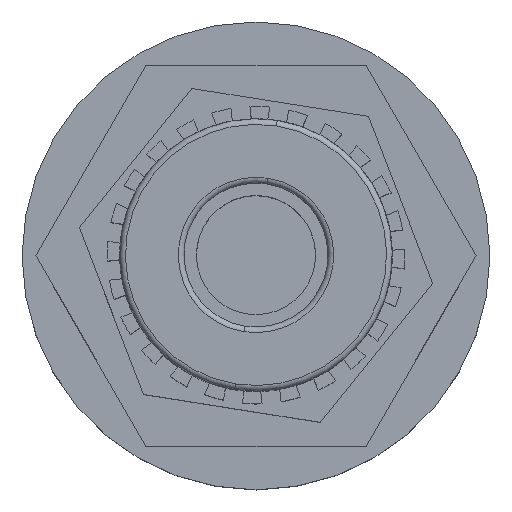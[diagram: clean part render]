
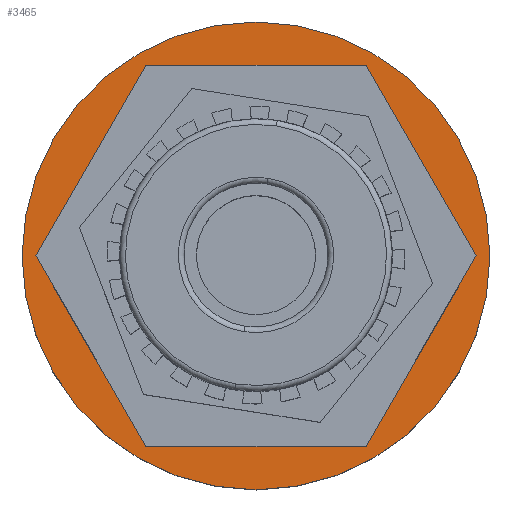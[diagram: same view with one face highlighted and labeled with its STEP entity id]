
A CAD part, top view. The second image highlights one B-rep face of the part: STEP entity #3465.
In plain terms, the highlighted planar face has unit normal (0, 0, 1).
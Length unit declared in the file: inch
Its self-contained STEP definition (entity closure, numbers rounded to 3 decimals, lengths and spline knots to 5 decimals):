
#19 = VERTEX_POINT ( 'NONE', #1109 ) ;
#227 = ORIENTED_EDGE ( 'NONE', *, *, #947, .F. ) ;
#254 = ORIENTED_EDGE ( 'NONE', *, *, #946, .F. ) ;
#267 = ORIENTED_EDGE ( 'NONE', *, *, #944, .F. ) ;
#281 = ORIENTED_EDGE ( 'NONE', *, *, #939, .F. ) ;
#291 = ORIENTED_EDGE ( 'NONE', *, *, #943, .F. ) ;
#296 = ORIENTED_EDGE ( 'NONE', *, *, #948, .F. ) ;
#298 = ORIENTED_EDGE ( 'NONE', *, *, #945, .F. ) ;
#426 = EDGE_LOOP ( 'NONE', ( #267, #298, #254, #227, #296, #575 ) ) ;
#488 = EDGE_LOOP ( 'NONE', ( #281, #291 ) ) ;
#575 = ORIENTED_EDGE ( 'NONE', *, *, #949, .F. ) ;
#643 = CARTESIAN_POINT ( 'NONE',  ( -4.28146, -0.04457, -0.077 ) ) ;
#655 = CARTESIAN_POINT ( 'NONE',  ( -4.85881, 0.95543, -0.077 ) ) ;
#656 = CARTESIAN_POINT ( 'NONE',  ( -4.93111, 0.95543, -0.077 ) ) ;
#668 = CARTESIAN_POINT ( 'NONE',  ( -2.54941, 0.95543, -0.077 ) ) ;
#670 = CARTESIAN_POINT ( 'NONE',  ( -3.12676, 1.95543, -0.077 ) ) ;
#690 = VERTEX_POINT ( 'NONE', #4358 ) ;
#745 = VERTEX_POINT ( 'NONE', #4334 ) ;
#821 = VERTEX_POINT ( 'NONE', #668 ) ;
#825 = VERTEX_POINT ( 'NONE', #656 ) ;
#826 = VERTEX_POINT ( 'NONE', #655 ) ;
#833 = VERTEX_POINT ( 'NONE', #670 ) ;
#840 = VERTEX_POINT ( 'NONE', #643 ) ;
#939 = EDGE_CURVE ( 'NONE', #825, #745, #3874, .T. ) ;
#943 = EDGE_CURVE ( 'NONE', #745, #825, #3880, .T. ) ;
#944 = EDGE_CURVE ( 'NONE', #821, #833, #3883, .T. ) ;
#945 = EDGE_CURVE ( 'NONE', #690, #821, #3881, .T. ) ;
#946 = EDGE_CURVE ( 'NONE', #840, #690, #3884, .T. ) ;
#947 = EDGE_CURVE ( 'NONE', #826, #840, #3886, .T. ) ;
#948 = EDGE_CURVE ( 'NONE', #19, #826, #3888, .T. ) ;
#949 = EDGE_CURVE ( 'NONE', #833, #19, #3890, .T. ) ;
#1025 = AXIS2_PLACEMENT_3D ( 'NONE', #1140, #1141, #1142 ) ;
#1027 = AXIS2_PLACEMENT_3D ( 'NONE', #1151, #1152, #1153 ) ;
#1109 = CARTESIAN_POINT ( 'NONE',  ( -4.28146, 1.95543, -0.077 ) ) ;
#1140 = CARTESIAN_POINT ( 'NONE',  ( -3.70411, 0.95543, -0.077 ) ) ;
#1141 = DIRECTION ( 'NONE',  ( 0., 0., -1. ) ) ;
#1142 = DIRECTION ( 'NONE',  ( -1., 0., 0. ) ) ;
#1143 = DIRECTION ( 'NONE',  ( -0.5, 0.866, 0. ) ) ;
#1148 = CARTESIAN_POINT ( 'NONE',  ( -2.54941, 0.95543, -0.077 ) ) ;
#1149 = CARTESIAN_POINT ( 'NONE',  ( -4.28146, -0.04457, -0.077 ) ) ;
#1150 = CARTESIAN_POINT ( 'NONE',  ( -3.12676, -0.04457, -0.077 ) ) ;
#1151 = CARTESIAN_POINT ( 'NONE',  ( -3.70411, 0.95543, -0.077 ) ) ;
#1152 = DIRECTION ( 'NONE',  ( 0., 0., -1. ) ) ;
#1153 = DIRECTION ( 'NONE',  ( -1., 0., 0. ) ) ;
#1154 = CARTESIAN_POINT ( 'NONE',  ( -4.85881, 0.95543, -0.077 ) ) ;
#1155 = DIRECTION ( 'NONE',  ( 0.5, 0.866, 0. ) ) ;
#1156 = CARTESIAN_POINT ( 'NONE',  ( -4.28146, 1.95543, -0.077 ) ) ;
#1157 = DIRECTION ( 'NONE',  ( 1., 0., 0. ) ) ;
#1158 = CARTESIAN_POINT ( 'NONE',  ( -3.12676, 1.95543, -0.077 ) ) ;
#1159 = DIRECTION ( 'NONE',  ( 0.5, -0.866, 0. ) ) ;
#1160 = DIRECTION ( 'NONE',  ( -0.5, -0.866, 0. ) ) ;
#1162 = DIRECTION ( 'NONE',  ( -1., 0., 0. ) ) ;
#1997 = DIRECTION ( 'NONE',  ( 0., 0., 1. ) ) ;
#1999 = CARTESIAN_POINT ( 'NONE',  ( -3.70411, 0.95543, -0.077 ) ) ;
#2000 = PLANE ( 'NONE',  #2585 ) ;
#2002 = DIRECTION ( 'NONE',  ( 1., 0., 0. ) ) ;
#2176 = FACE_BOUND ( 'NONE', #426, .T. ) ;
#2216 = FACE_OUTER_BOUND ( 'NONE', #488, .T. ) ;
#2585 = AXIS2_PLACEMENT_3D ( 'NONE', #1999, #1997, #2002 ) ;
#3465 = ADVANCED_FACE ( 'NONE', ( #2216, #2176 ), #2000, .T. ) ;
#3874 = CIRCLE ( 'NONE', #1025, 1.227 ) ;
#3880 = CIRCLE ( 'NONE', #1027, 1.227 ) ;
#3881 = LINE ( 'NONE', #1150, #3887 ) ;
#3883 = LINE ( 'NONE', #1148, #3885 ) ;
#3884 = LINE ( 'NONE', #1149, #3889 ) ;
#3885 = VECTOR ( 'NONE', #1143, 39.37008 ) ;
#3886 = LINE ( 'NONE', #1154, #3891 ) ;
#3887 = VECTOR ( 'NONE', #1155, 39.37008 ) ;
#3888 = LINE ( 'NONE', #1156, #3893 ) ;
#3889 = VECTOR ( 'NONE', #1157, 39.37008 ) ;
#3890 = LINE ( 'NONE', #1158, #3895 ) ;
#3891 = VECTOR ( 'NONE', #1159, 39.37008 ) ;
#3893 = VECTOR ( 'NONE', #1160, 39.37008 ) ;
#3895 = VECTOR ( 'NONE', #1162, 39.37008 ) ;
#4334 = CARTESIAN_POINT ( 'NONE',  ( -2.47711, 0.95543, -0.077 ) ) ;
#4358 = CARTESIAN_POINT ( 'NONE',  ( -3.12676, -0.04457, -0.077 ) ) ;
